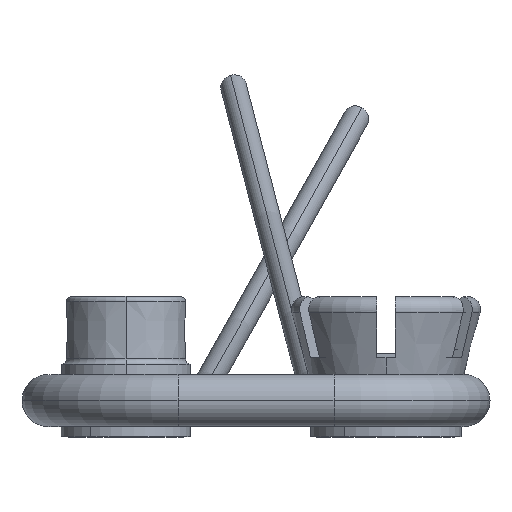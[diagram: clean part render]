
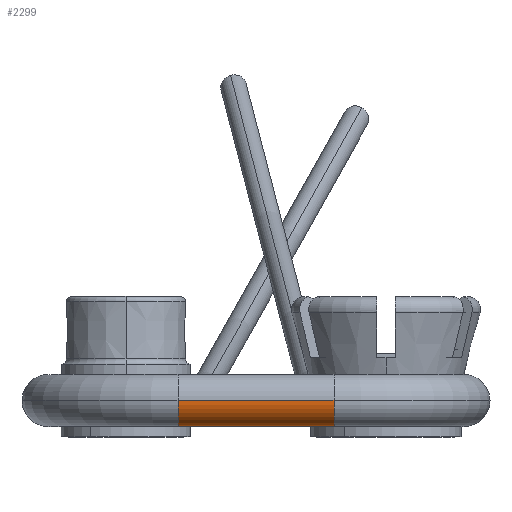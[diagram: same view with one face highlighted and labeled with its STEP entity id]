
A CAD part, top view. The second image highlights one B-rep face of the part: STEP entity #2299.
In plain terms, the highlighted cylindrical face has radius 1.27 mm (diameter 2.54 mm), a partial arc.
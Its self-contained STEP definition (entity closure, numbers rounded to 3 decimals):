
#239 = CARTESIAN_POINT ( 'NONE',  ( -81.116, 14.953, 47.08 ) ) ;
#371 = CYLINDRICAL_SURFACE ( 'NONE', #1402, 1.27 ) ;
#581 = DIRECTION ( 'NONE',  ( 0., 0., 1. ) ) ;
#671 = ORIENTED_EDGE ( 'NONE', *, *, #1626, .F. ) ;
#758 = ORIENTED_EDGE ( 'NONE', *, *, #2186, .F. ) ;
#789 = LINE ( 'NONE', #1260, #4519 ) ;
#795 = LINE ( 'NONE', #4026, #4401 ) ;
#936 = VERTEX_POINT ( 'NONE', #1362 ) ;
#1057 = ORIENTED_EDGE ( 'NONE', *, *, #1534, .T. ) ;
#1083 = EDGE_LOOP ( 'NONE', ( #1828, #1057, #671, #758 ) ) ;
#1170 = DIRECTION ( 'NONE',  ( -1., 0., 0. ) ) ;
#1260 = CARTESIAN_POINT ( 'NONE',  ( -81.116, 13.683, 47.08 ) ) ;
#1362 = CARTESIAN_POINT ( 'NONE',  ( -81.116, 13.683, 47.08 ) ) ;
#1402 = AXIS2_PLACEMENT_3D ( 'NONE', #2022, #4459, #2002 ) ;
#1449 = EDGE_CURVE ( 'NONE', #3999, #2442, #3001, .T. ) ;
#1534 = EDGE_CURVE ( 'NONE', #2442, #2912, #795, .T. ) ;
#1626 = EDGE_CURVE ( 'NONE', #936, #2912, #2450, .T. ) ;
#1789 = AXIS2_PLACEMENT_3D ( 'NONE', #239, #2685, #581 ) ;
#1828 = ORIENTED_EDGE ( 'NONE', *, *, #1449, .T. ) ;
#2002 = DIRECTION ( 'NONE',  ( 0., 0., 1. ) ) ;
#2022 = CARTESIAN_POINT ( 'NONE',  ( -81.116, 14.953, 47.08 ) ) ;
#2186 = EDGE_CURVE ( 'NONE', #3999, #936, #789, .T. ) ;
#2299 = ADVANCED_FACE ( 'NONE', ( #3173 ), #371, .T. ) ;
#2442 = VERTEX_POINT ( 'NONE', #3852 ) ;
#2450 = CIRCLE ( 'NONE', #1789, 1.27 ) ;
#2685 = DIRECTION ( 'NONE',  ( -1., 0., 0. ) ) ;
#2912 = VERTEX_POINT ( 'NONE', #4528 ) ;
#2970 = CARTESIAN_POINT ( 'NONE',  ( -73.496, 13.683, 47.08 ) ) ;
#3001 = CIRCLE ( 'NONE', #3290, 1.27 ) ;
#3173 = FACE_OUTER_BOUND ( 'NONE', #1083, .T. ) ;
#3290 = AXIS2_PLACEMENT_3D ( 'NONE', #3291, #1170, #3641 ) ;
#3291 = CARTESIAN_POINT ( 'NONE',  ( -73.496, 14.953, 47.08 ) ) ;
#3338 = DIRECTION ( 'NONE',  ( -1., 0., 0. ) ) ;
#3641 = DIRECTION ( 'NONE',  ( 0., 0., 1. ) ) ;
#3852 = CARTESIAN_POINT ( 'NONE',  ( -73.496, 14.953, 48.35 ) ) ;
#3999 = VERTEX_POINT ( 'NONE', #2970 ) ;
#4026 = CARTESIAN_POINT ( 'NONE',  ( -81.116, 14.953, 48.35 ) ) ;
#4401 = VECTOR ( 'NONE', #3338, 1000. ) ;
#4409 = DIRECTION ( 'NONE',  ( -1., 0., 0. ) ) ;
#4459 = DIRECTION ( 'NONE',  ( -1., 0., 0. ) ) ;
#4519 = VECTOR ( 'NONE', #4409, 1000. ) ;
#4528 = CARTESIAN_POINT ( 'NONE',  ( -81.116, 14.953, 48.35 ) ) ;
